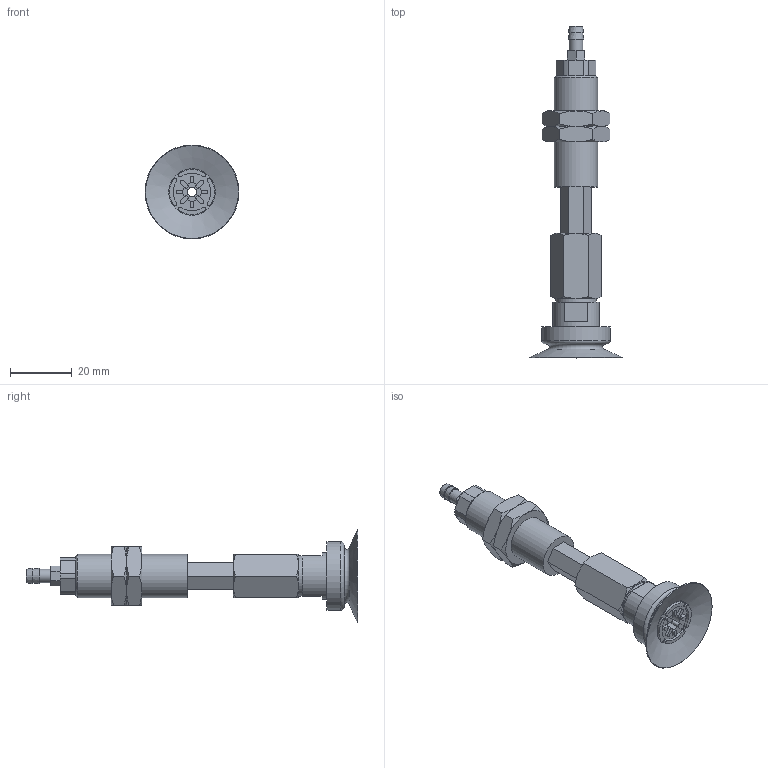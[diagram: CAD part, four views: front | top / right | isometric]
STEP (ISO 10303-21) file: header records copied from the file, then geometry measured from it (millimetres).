
FILE_DESCRIPTION(('STEP AP203'),'1');
FILE_NAME('-T.stp','2025-08-26T08:06:25',(' '),(' '),'Spatial InterOp 3D',' ',' ');
FILE_SCHEMA(('CONFIG_CONTROL_DESIGN'));
Length unit declared in the file: millimetre
Products named in the file (7): BNABPATH-30-15-※-T; ADAPTER; NAPATH-30-15--M; Nut-25-S; NAPATH-30-15--F; BPAG-30-※; T
Assembly tree (7 placements, depth 2):
  BNABPATH-30-15-※-T
    ADAPTER
    NAPATH-30-15--M
    Nut-25-S  x2
    NAPATH-30-15--F
    BPAG-30-※
    T
Bounding box: 30.3 x 107.2 x 30.3 mm (x, y, z)
Volume: 16067.4 mm3; surface area: 12195.4 mm2
Topology: 7 solids, 7 shells, 210 faces, 488 edges, 309 vertices
Faces by surface type: plane 101, cylinder 58, cone 49, torus 2
Full cylindrical faces by diameter (mm): 3 x4, 4.134 x1, 4.3 x1, 4.6 x1, 4.917 x1, 5 x1, 6 x1, 12.917 x2, 13 x1, 14 x1, 15 x1, 22 x1
Entity records: 5813 total; most frequent: CARTESIAN_POINT 1217, DIRECTION 915, ORIENTED_EDGE 816, EDGE_CURVE 408, AXIS2_PLACEMENT_3D 360, VERTEX_POINT 278, EDGE_LOOP 244, FACE_OUTER_BOUND 204
